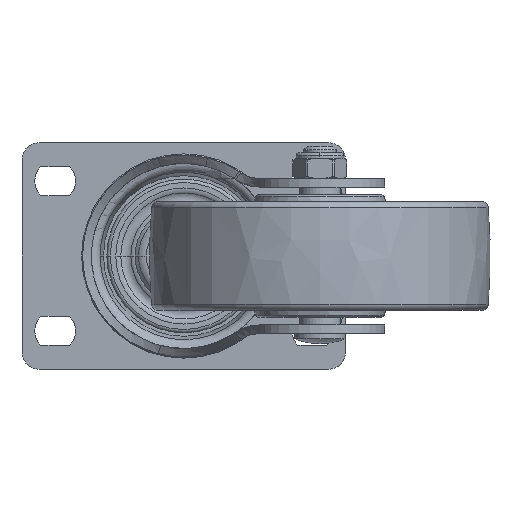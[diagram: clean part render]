
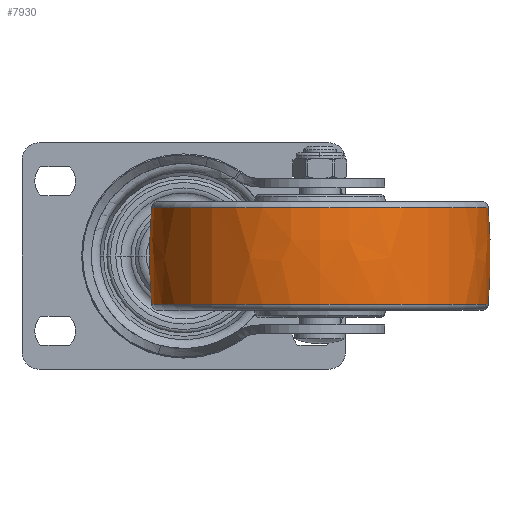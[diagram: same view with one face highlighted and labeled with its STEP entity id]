
A CAD part, front view. The second image highlights one B-rep face of the part: STEP entity #7930.
In plain terms, the highlighted free-form (B-spline) face has degree [3, 3] with [7, 4] control points.
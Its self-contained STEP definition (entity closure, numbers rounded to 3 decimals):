
#7342=CARTESIAN_POINT('',(0.009,-120.,
0.));
#7343=DIRECTION('',(0.,0.,1.));
#7344=DIRECTION('',(0.083,0.997,0.));
#7345=AXIS2_PLACEMENT_3D('',#7342,#7343,#7344);
#7347=CARTESIAN_POINT('',(0.009,120.,
0.));
#7348=DIRECTION('',(0.,0.,-1.));
#7349=DIRECTION('',(0.083,-0.997,0.));
#7350=AXIS2_PLACEMENT_3D('',#7347,#7348,#7349);
#7352=CARTESIAN_POINT('',(14.167,0.,0.));
#7353=DIRECTION('',(-1.,0.,0.));
#7354=DIRECTION('',(0.,1.,0.));
#7355=AXIS2_PLACEMENT_3D('',#7352,#7353,#7354);
#7377=CARTESIAN_POINT('',(-14.167,0.,0.));
#7378=DIRECTION('',(-1.,0.,0.));
#7379=DIRECTION('',(0.,1.,0.));
#7380=AXIS2_PLACEMENT_3D('',#7377,#7378,#7379);
#7521=CARTESIAN_POINT('',(14.167,49.41,0.));
#7523=VERTEX_POINT('',#7521);
#7524=CARTESIAN_POINT('',(-14.167,49.408,0.));
#7525=VERTEX_POINT('',#7524);
#7561=CARTESIAN_POINT('',(14.167,-49.41,
0.));
#7563=VERTEX_POINT('',#7561);
#7564=CARTESIAN_POINT('',(-14.167,-49.408,
0.));
#7565=VERTEX_POINT('',#7564);
#7892=CARTESIAN_POINT('',(-14.732,-49.263,
3.099));
#7893=CARTESIAN_POINT('',(-4.923,-50.115,
3.153));
#7894=CARTESIAN_POINT('',(4.923,-50.115,3.153));
#7895=CARTESIAN_POINT('',(14.732,-49.264,3.099));
#7896=CARTESIAN_POINT('',(-14.732,-51.17,
-27.217));
#7897=CARTESIAN_POINT('',(-4.923,-52.055,
-27.688));
#7898=CARTESIAN_POINT('',(4.923,-52.056,
-27.688));
#7899=CARTESIAN_POINT('',(14.732,-51.172,
-27.218));
#7900=CARTESIAN_POINT('',(-14.732,-30.376,
-49.36));
#7901=CARTESIAN_POINT('',(-4.923,-30.902,
-50.214));
#7902=CARTESIAN_POINT('',(4.923,-30.902,
-50.214));
#7903=CARTESIAN_POINT('',(14.732,-30.377,
-49.362));
#7904=CARTESIAN_POINT('',(-14.732,0.,
-49.36));
#7905=CARTESIAN_POINT('',(-4.923,0.,
-50.214));
#7906=CARTESIAN_POINT('',(4.923,0.,
-50.214));
#7907=CARTESIAN_POINT('',(14.732,0.,
-49.362));
#7908=CARTESIAN_POINT('',(-14.732,30.376,
-49.36));
#7909=CARTESIAN_POINT('',(-4.923,30.902,
-50.214));
#7910=CARTESIAN_POINT('',(4.923,30.902,-50.214));
#7911=CARTESIAN_POINT('',(14.732,30.377,-49.362));
#7912=CARTESIAN_POINT('',(-14.732,51.17,
-27.217));
#7913=CARTESIAN_POINT('',(-4.923,52.055,
-27.688));
#7914=CARTESIAN_POINT('',(4.923,52.056,-27.688));
#7915=CARTESIAN_POINT('',(14.732,51.172,-27.218));
#7916=CARTESIAN_POINT('',(-14.732,49.263,3.099));
#7917=CARTESIAN_POINT('',(-4.923,50.115,3.153));
#7918=CARTESIAN_POINT('',(4.923,50.115,3.153));
#7919=CARTESIAN_POINT('',(14.732,49.264,3.099));
#7920=(BOUNDED_SURFACE()B_SPLINE_SURFACE(3,3,((#7892,#7893,#7894,#7895),(#7896,
#7897,#7898,#7899),(#7900,#7901,#7902,#7903),(#7904,#7905,#7906,#7907),(#7908,
#7909,#7910,#7911),(#7912,#7913,#7914,#7915),(#7916,#7917,#7918,#7919)),
.UNSPECIFIED.,.F.,.F.,.F.)B_SPLINE_SURFACE_WITH_KNOTS((4,3,4),(4,4),(0.,1.,
2.),(0.,1.),.UNSPECIFIED.)GEOMETRIC_REPRESENTATION_ITEM()RATIONAL_B_SPLINE_SURFACE(((1.19,1.187,1.187,1.19),(
0.939,0.937,0.937,0.939),(
0.939,0.937,0.937,0.939),(
1.19,1.187,1.187,1.19),(
0.939,0.937,0.937,0.939),(
0.939,0.937,0.937,0.939),(
1.19,1.187,1.187,1.19)))REPRESENTATION_ITEM('')SURFACE());
#7922=ORIENTED_EDGE('',*,*,#7921,.T.);
#7924=ORIENTED_EDGE('',*,*,#7923,.T.);
#7926=ORIENTED_EDGE('',*,*,#7925,.F.);
#7927=ORIENTED_EDGE('',*,*,#7885,.F.);
#7928=EDGE_LOOP('',(#7922,#7924,#7926,#7927));
#7929=FACE_OUTER_BOUND('',#7928,.F.);
#7346=CIRCLE('',#7345,170.);
#7351=CIRCLE('',#7350,170.);
#7356=CIRCLE('',#7355,49.41);
#7381=CIRCLE('',#7380,49.408);
#7885=EDGE_CURVE('',#7523,#7563,#7356,.T.);
#7921=EDGE_CURVE('',#7523,#7525,#7346,.T.);
#7923=EDGE_CURVE('',#7525,#7565,#7381,.T.);
#7925=EDGE_CURVE('',#7563,#7565,#7351,.T.);
#7930=ADVANCED_FACE('',(#7929),#7920,.T.);
